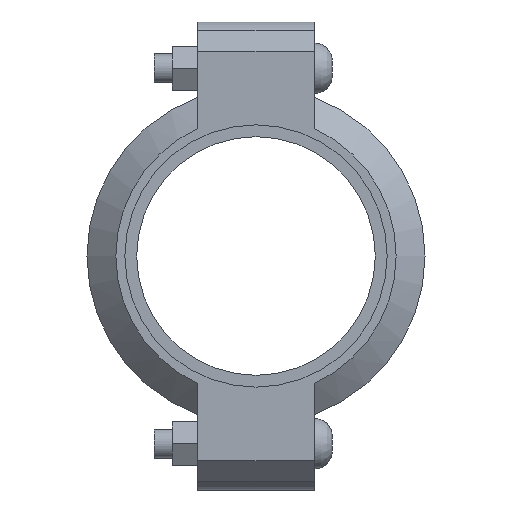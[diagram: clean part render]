
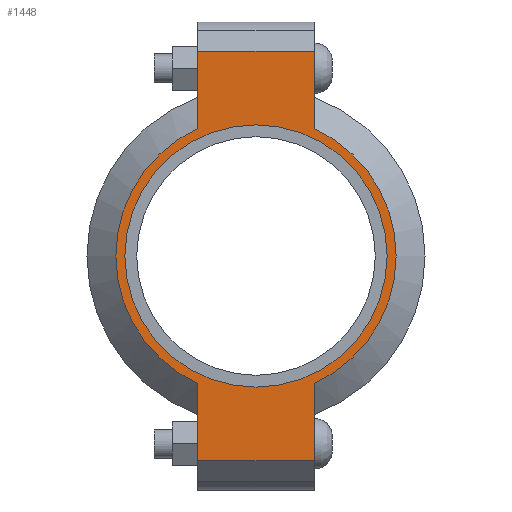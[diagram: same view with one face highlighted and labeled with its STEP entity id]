
A CAD part, left-side view. The second image highlights one B-rep face of the part: STEP entity #1448.
In plain terms, the highlighted planar face has unit normal (-1, 0, 0) as drawn and (0, 0, 1) by its records, which use the part's own axes.
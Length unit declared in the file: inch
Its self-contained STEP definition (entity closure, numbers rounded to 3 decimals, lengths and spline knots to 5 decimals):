
#128=LINE('',#2493,#219);
#136=LINE('',#2529,#227);
#143=LINE('',#2550,#234);
#152=LINE('',#2582,#243);
#153=LINE('',#2586,#244);
#154=LINE('',#2588,#245);
#219=VECTOR('',#2019,0.3937);
#227=VECTOR('',#2035,0.3937);
#234=VECTOR('',#2054,0.3937);
#243=VECTOR('',#2079,0.3937);
#244=VECTOR('',#2084,0.3937);
#245=VECTOR('',#2085,0.3937);
#297=FACE_BOUND('',#457,.T.);
#361=FACE_OUTER_BOUND('',#456,.T.);
#456=EDGE_LOOP('',(#1183,#1184,#1185,#1186,#1187,#1188,#1189,#1190));
#457=EDGE_LOOP('',(#1191));
#554=CIRCLE('',#1691,2.405);
#555=CIRCLE('',#1692,2.405);
#556=CIRCLE('',#1693,2.25);
#659=VERTEX_POINT('',#2490);
#660=VERTEX_POINT('',#2492);
#671=VERTEX_POINT('',#2524);
#672=VERTEX_POINT('',#2528);
#679=VERTEX_POINT('',#2547);
#680=VERTEX_POINT('',#2549);
#690=VERTEX_POINT('',#2585);
#691=VERTEX_POINT('',#2587);
#692=VERTEX_POINT('',#2590);
#823=EDGE_CURVE('',#660,#659,#128,.T.);
#837=EDGE_CURVE('',#672,#671,#136,.T.);
#847=EDGE_CURVE('',#680,#679,#143,.T.);
#862=EDGE_CURVE('',#672,#659,#152,.T.);
#863=EDGE_CURVE('',#671,#680,#554,.T.);
#864=EDGE_CURVE('',#690,#679,#153,.T.);
#865=EDGE_CURVE('',#690,#691,#154,.T.);
#866=EDGE_CURVE('',#691,#660,#555,.T.);
#867=EDGE_CURVE('',#692,#692,#556,.T.);
#1183=ORIENTED_EDGE('',*,*,#862,.F.);
#1184=ORIENTED_EDGE('',*,*,#837,.T.);
#1185=ORIENTED_EDGE('',*,*,#863,.T.);
#1186=ORIENTED_EDGE('',*,*,#847,.T.);
#1187=ORIENTED_EDGE('',*,*,#864,.F.);
#1188=ORIENTED_EDGE('',*,*,#865,.T.);
#1189=ORIENTED_EDGE('',*,*,#866,.T.);
#1190=ORIENTED_EDGE('',*,*,#823,.T.);
#1191=ORIENTED_EDGE('',*,*,#867,.T.);
#1302=PLANE('',#1690);
#1448=ADVANCED_FACE('',(#361,#297),#1302,.T.);
#1690=AXIS2_PLACEMENT_3D('',#2583,#2080,#2081);
#1691=AXIS2_PLACEMENT_3D('',#2584,#2082,#2083);
#1692=AXIS2_PLACEMENT_3D('',#2589,#2086,#2087);
#1693=AXIS2_PLACEMENT_3D('',#2591,#2088,#2089);
#2019=DIRECTION('',(-1.,0.,0.));
#2035=DIRECTION('',(1.,0.,0.));
#2054=DIRECTION('',(1.,0.,0.));
#2079=DIRECTION('',(0.,1.,0.));
#2080=DIRECTION('center_axis',(0.,0.,1.));
#2081=DIRECTION('ref_axis',(1.,0.,0.));
#2082=DIRECTION('center_axis',(0.,0.,1.));
#2083=DIRECTION('ref_axis',(-1.,0.,0.));
#2084=DIRECTION('',(0.,-1.,0.));
#2085=DIRECTION('',(-1.,0.,0.));
#2086=DIRECTION('center_axis',(0.,0.,1.));
#2087=DIRECTION('ref_axis',(-1.,0.,0.));
#2088=DIRECTION('center_axis',(0.,0.,-1.));
#2089=DIRECTION('ref_axis',(-1.,0.,0.));
#2490=CARTESIAN_POINT('',(-3.515,1.,1.065));
#2492=CARTESIAN_POINT('',(-2.18724,1.,1.065));
#2493=CARTESIAN_POINT('',(-4.015,1.,1.065));
#2524=CARTESIAN_POINT('',(-2.18724,-1.,1.065));
#2528=CARTESIAN_POINT('',(-3.515,-1.,1.065));
#2529=CARTESIAN_POINT('',(4.015,-1.,1.065));
#2547=CARTESIAN_POINT('',(3.515,-1.,1.065));
#2549=CARTESIAN_POINT('',(2.18724,-1.,1.065));
#2550=CARTESIAN_POINT('',(4.015,-1.,1.065));
#2582=CARTESIAN_POINT('',(-3.515,0.5,1.065));
#2583=CARTESIAN_POINT('Origin',(0.,0.,1.065));
#2584=CARTESIAN_POINT('Origin',(0.,0.,1.065));
#2585=CARTESIAN_POINT('',(3.515,1.,1.065));
#2586=CARTESIAN_POINT('',(3.515,-0.5,1.065));
#2587=CARTESIAN_POINT('',(2.18724,1.,1.065));
#2588=CARTESIAN_POINT('',(-4.015,1.,1.065));
#2589=CARTESIAN_POINT('Origin',(0.,0.,1.065));
#2590=CARTESIAN_POINT('',(2.25,0.,1.065));
#2591=CARTESIAN_POINT('Origin',(0.,0.,1.065));
